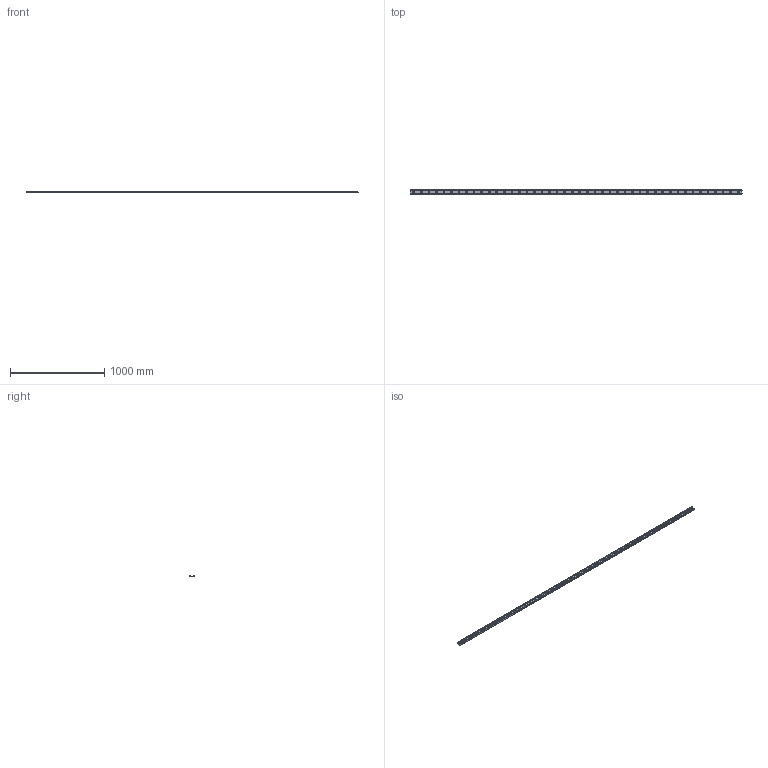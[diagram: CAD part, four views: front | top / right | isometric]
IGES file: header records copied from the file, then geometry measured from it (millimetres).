
Start section: SolidWorks IGES file using analytic representation for surfaces
Global section: file name: C:\Users\IanO\Desktop\43\L1943.ULC43_v2_20180121_IGES\L1943.ULC43-3520.igs; native system: SolidWorks 2017; preprocessor: SolidWorks 2017; author: IanO; date: 190121.085325; units: millimetre
Bounding box: 3520 x 43 x 21 mm (x, y, z)
Surface area: 551891.8 mm2 (no closed solid volume)
Topology: 0 solids, 0 shells, 246 faces, 6630 edges, 6630 vertices
Faces by surface type: revolution 189, bspline 57
